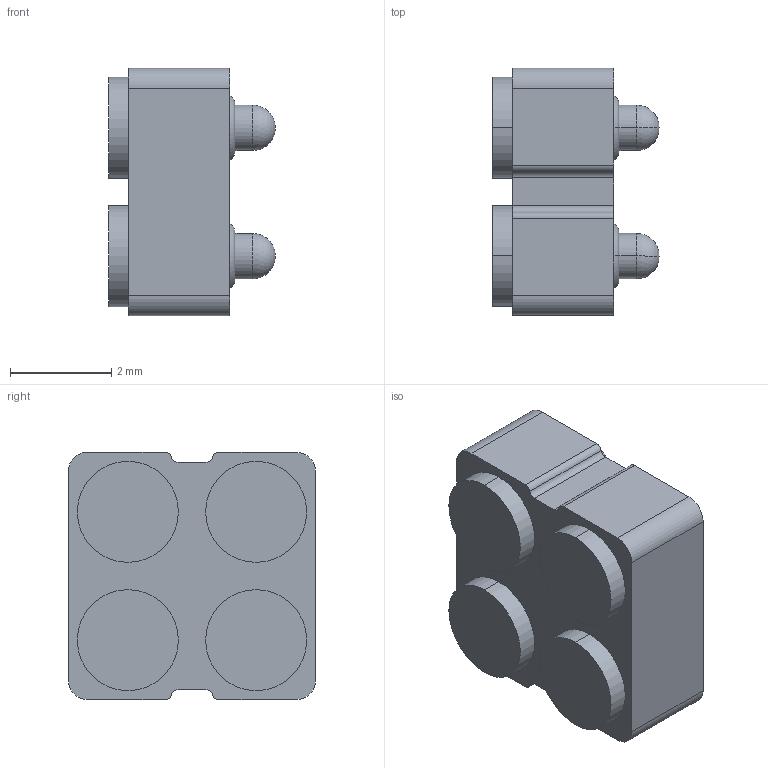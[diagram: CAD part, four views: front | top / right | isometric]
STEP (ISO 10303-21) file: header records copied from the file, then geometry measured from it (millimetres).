
FILE_DESCRIPTION((''),'2;1');
FILE_NAME('ASM0002_ASM','2023-06-07T14:14:32',('USER'),(''),'CREO PARAMETRIC BY PTC INC, 2020154','CREO PARAMETRIC BY PTC INC, 2020154','');
FILE_SCHEMA(('CONFIG_CONTROL_DESIGN'));
Length unit declared in the file: millimetre
Products named in the file (3): PRT0004; PRT0003; ASM0002_ASM
Assembly tree (5 placements, depth 2):
  ASM0002_ASM
    PRT0004
    PRT0003  x4
Bounding box: 3.3 x 4.9 x 4.9 mm (x, y, z)
Volume: 53.6 mm3; surface area: 187.8 mm2
Topology: 5 solids, 5 shells, 126 faces, 276 edges, 164 vertices
Faces by surface type: cylinder 68, plane 26, cone 16, torus 8, sphere 8
Entity records: 1724 total; most frequent: DIRECTION 324, CARTESIAN_POINT 275, ORIENTED_EDGE 260, AXIS2_PLACEMENT_3D 132, EDGE_CURVE 130, VERTEX_POINT 83, CIRCLE 70, EDGE_LOOP 65
